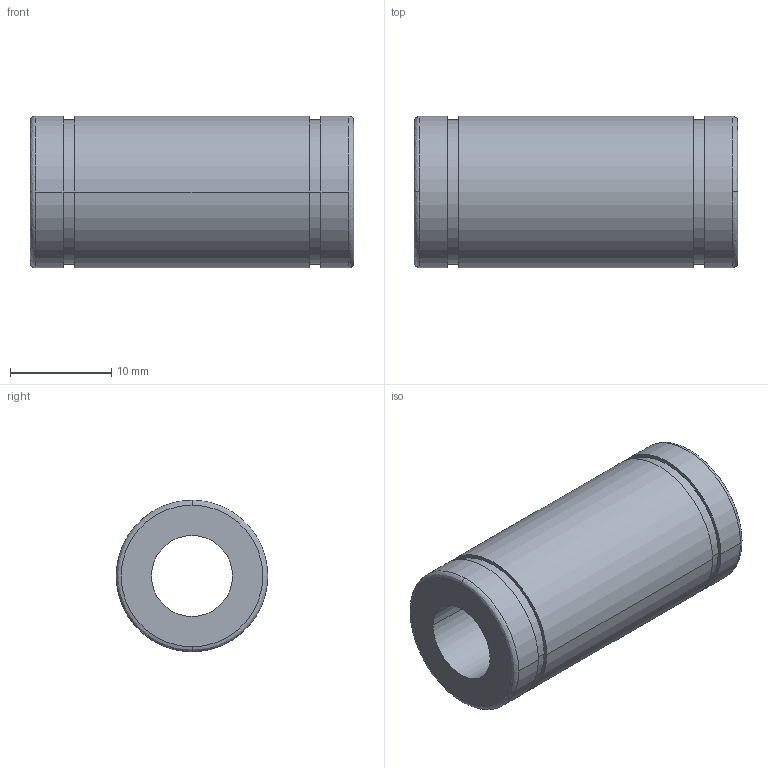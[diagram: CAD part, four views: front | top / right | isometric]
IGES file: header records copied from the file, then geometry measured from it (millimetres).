
Start section: 3D InterOp IGES (Version 21 0 1), Spatial Corp. Copyright (c) 1999-2007.
Global section: file name: N-8VM.igs; native system: Spatial Corp.; preprocessor: 3D InterOp GENERIC/IGES 3.0; author: Noname; organization: Noname; date: 20220516.092813; units: millimetre
Bounding box: 32 x 15 x 15 mm (x, y, z)
Surface area: 2604 mm2 (no closed solid volume)
Topology: 0 solids, 0 shells, 22 faces, 100 edges, 100 vertices
Faces by surface type: revolution 16, extrusion 6
